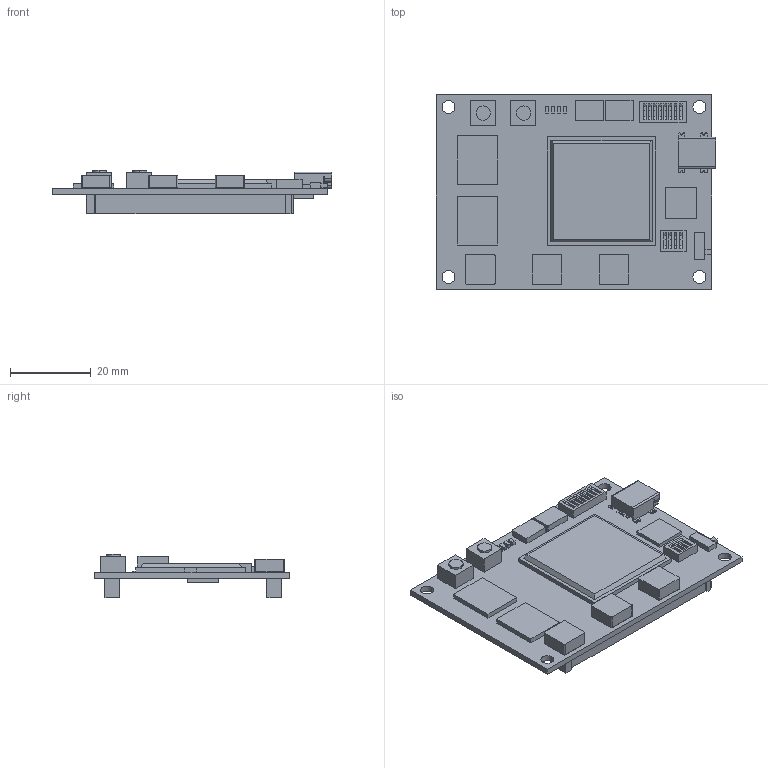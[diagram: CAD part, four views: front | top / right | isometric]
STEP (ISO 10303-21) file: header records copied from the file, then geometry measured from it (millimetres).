
FILE_DESCRIPTION (( 'STEP AP203' ), '1' );
FILE_NAME ('TE0320.STEP', '2010-10-12T14:47:01', ( 'Ales Gorkic' ), ( 'HP' ), 'SwSTEP 2.0', 'SolidWorks 2009', '' );
FILE_SCHEMA (( 'CONFIG_CONTROL_DESIGN' ));
Length unit declared in the file: millimetre
Products named in the file (15): DDR; Spartan3_FG676; MUSB-05-S-B-SM-A; Slide_SW; DIP8_SMD; PushButton; DIP4_SMD; FX2; TE0320; FLASH; TE0320_plata; CB50-80-2-M100-2P; Inductor; Oscillator; LED0603
Assembly tree (23 placements, depth 2):
  TE0320
    FX2
    TE0320_plata
    LED0603  x4
    MUSB-05-S-B-SM-A
    Inductor  x3
    CB50-80-2-M100-2P  x2
    DDR  x2
    PushButton  x2
    Slide_SW
    Oscillator  x2
    FLASH
    DIP8_SMD
    DIP4_SMD
    Spartan3_FG676
Bounding box: 69 x 48 x 10.8 mm (x, y, z)
Volume: 9534.9 mm3; surface area: 13201.8 mm2
Topology: 23 solids, 23 shells, 501 faces, 1264 edges, 832 vertices
Faces by surface type: plane 393, cylinder 92, torus 12, cone 4
Entity records: 14496 total; most frequent: CARTESIAN_POINT 2509, ORIENTED_EDGE 2128, DIRECTION 2008, EDGE_CURVE 1064, VECTOR 868, LINE 868, VERTEX_POINT 704, AXIS2_PLACEMENT_3D 570
